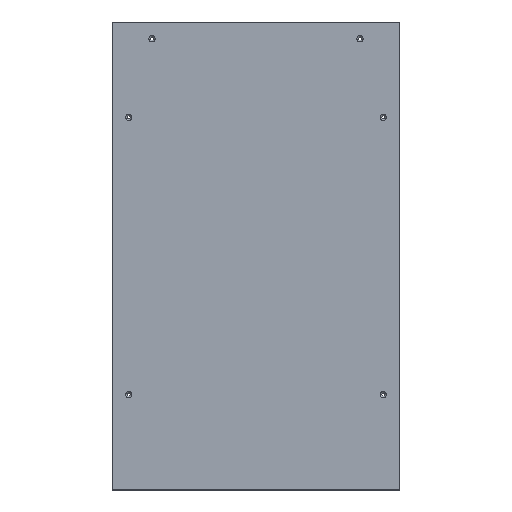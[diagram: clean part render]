
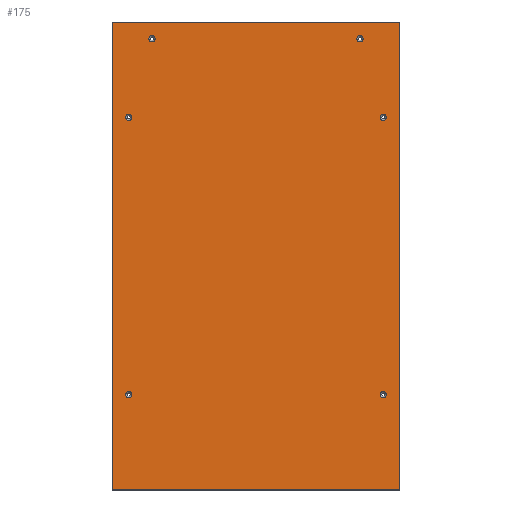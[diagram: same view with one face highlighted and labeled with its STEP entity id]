
A CAD part, top view. The second image highlights one B-rep face of the part: STEP entity #175.
In plain terms, the highlighted planar face has unit normal (0, 0, 1).
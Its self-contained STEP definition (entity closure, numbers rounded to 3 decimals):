
#1 = CARTESIAN_POINT ( 'NONE',  ( -188., -200., 2. ) ) ;
#2 = CARTESIAN_POINT ( 'NONE',  ( 207.5, 337.5, 2. ) ) ;
#4 = EDGE_LOOP ( 'NONE', ( #253 ) ) ;
#6 = DIRECTION ( 'NONE',  ( -1., 0., 0. ) ) ;
#11 = CARTESIAN_POINT ( 'NONE',  ( -207.5, -337.5, 2. ) ) ;
#23 = VECTOR ( 'NONE', #161, 1000. ) ;
#25 = ORIENTED_EDGE ( 'NONE', *, *, #471, .T. ) ;
#30 = CARTESIAN_POINT ( 'NONE',  ( -207.5, -337.5, 2. ) ) ;
#35 = DIRECTION ( 'NONE',  ( 0., 1., 0. ) ) ;
#38 = ORIENTED_EDGE ( 'NONE', *, *, #476, .T. ) ;
#39 = CIRCLE ( 'NONE', #358, 4.5 ) ;
#40 = VECTOR ( 'NONE', #35, 1000. ) ;
#44 = FACE_OUTER_BOUND ( 'NONE', #188, .T. ) ;
#46 = PLANE ( 'NONE',  #448 ) ;
#50 = EDGE_LOOP ( 'NONE', ( #110 ) ) ;
#52 = CARTESIAN_POINT ( 'NONE',  ( 183.5, 200., 2. ) ) ;
#63 = ORIENTED_EDGE ( 'NONE', *, *, #495, .T. ) ;
#64 = EDGE_CURVE ( 'NONE', #135, #135, #73, .T. ) ;
#69 = ORIENTED_EDGE ( 'NONE', *, *, #64, .T. ) ;
#73 = CIRCLE ( 'NONE', #248, 4.5 ) ;
#75 = AXIS2_PLACEMENT_3D ( 'NONE', #204, #290, #118 ) ;
#80 = VERTEX_POINT ( 'NONE', #2 ) ;
#82 = CARTESIAN_POINT ( 'NONE',  ( 179., 200., 2. ) ) ;
#85 = VERTEX_POINT ( 'NONE', #433 ) ;
#89 = FACE_BOUND ( 'NONE', #245, .T. ) ;
#97 = CARTESIAN_POINT ( 'NONE',  ( 183.5, -200., 2. ) ) ;
#100 = VECTOR ( 'NONE', #292, 1000. ) ;
#101 = DIRECTION ( 'NONE',  ( -1., 0., 0. ) ) ;
#110 = ORIENTED_EDGE ( 'NONE', *, *, #122, .T. ) ;
#118 = DIRECTION ( 'NONE',  ( -1., 0., 0. ) ) ;
#120 = EDGE_LOOP ( 'NONE', ( #25 ) ) ;
#121 = DIRECTION ( 'NONE',  ( 0., -1., 0. ) ) ;
#122 = EDGE_CURVE ( 'NONE', #308, #308, #171, .T. ) ;
#123 = VERTEX_POINT ( 'NONE', #11 ) ;
#125 = EDGE_LOOP ( 'NONE', ( #69 ) ) ;
#135 = VERTEX_POINT ( 'NONE', #82 ) ;
#137 = CIRCLE ( 'NONE', #75, 4.5 ) ;
#147 = CARTESIAN_POINT ( 'NONE',  ( -183.5, -200., 2. ) ) ;
#152 = LINE ( 'NONE', #389, #23 ) ;
#161 = DIRECTION ( 'NONE',  ( 1., 0., 0. ) ) ;
#171 = CIRCLE ( 'NONE', #257, 4.5 ) ;
#175 = ADVANCED_FACE ( 'NONE', ( #441, #89, #360, #532, #315, #443, #44 ), #46, .F. ) ;
#188 = EDGE_LOOP ( 'NONE', ( #63, #38, #400, #384 ) ) ;
#190 = DIRECTION ( 'NONE',  ( -1., 0., 0. ) ) ;
#199 = LINE ( 'NONE', #244, #40 ) ;
#201 = CIRCLE ( 'NONE', #530, 4.5 ) ;
#204 = CARTESIAN_POINT ( 'NONE',  ( -183.5, 200., 2. ) ) ;
#218 = DIRECTION ( 'NONE',  ( 0., 0., -1. ) ) ;
#225 = VERTEX_POINT ( 'NONE', #442 ) ;
#243 = EDGE_CURVE ( 'NONE', #225, #225, #39, .T. ) ;
#244 = CARTESIAN_POINT ( 'NONE',  ( 207.5, -337.5, 2. ) ) ;
#245 = EDGE_LOOP ( 'NONE', ( #339 ) ) ;
#248 = AXIS2_PLACEMENT_3D ( 'NONE', #52, #394, #307 ) ;
#253 = ORIENTED_EDGE ( 'NONE', *, *, #243, .T. ) ;
#254 = CARTESIAN_POINT ( 'NONE',  ( 207.5, -337.5, 2. ) ) ;
#257 = AXIS2_PLACEMENT_3D ( 'NONE', #399, #309, #6 ) ;
#265 = VERTEX_POINT ( 'NONE', #1 ) ;
#276 = EDGE_CURVE ( 'NONE', #265, #265, #468, .T. ) ;
#290 = DIRECTION ( 'NONE',  ( 0., 0., -1. ) ) ;
#292 = DIRECTION ( 'NONE',  ( -1., 0., 0. ) ) ;
#293 = VERTEX_POINT ( 'NONE', #363 ) ;
#301 = EDGE_CURVE ( 'NONE', #85, #85, #201, .T. ) ;
#307 = DIRECTION ( 'NONE',  ( -1., 0., 0. ) ) ;
#308 = VERTEX_POINT ( 'NONE', #521 ) ;
#309 = DIRECTION ( 'NONE',  ( 0., 0., -1. ) ) ;
#315 = FACE_BOUND ( 'NONE', #50, .T. ) ;
#328 = DIRECTION ( 'NONE',  ( -1., 0., 0. ) ) ;
#333 = LINE ( 'NONE', #383, #100 ) ;
#339 = ORIENTED_EDGE ( 'NONE', *, *, #276, .T. ) ;
#357 = CARTESIAN_POINT ( 'NONE',  ( 0., 0., 2. ) ) ;
#358 = AXIS2_PLACEMENT_3D ( 'NONE', #97, #365, #328 ) ;
#360 = FACE_BOUND ( 'NONE', #4, .T. ) ;
#363 = CARTESIAN_POINT ( 'NONE',  ( -207.5, 337.5, 2. ) ) ;
#365 = DIRECTION ( 'NONE',  ( 0., 0., -1. ) ) ;
#369 = AXIS2_PLACEMENT_3D ( 'NONE', #147, #498, #101 ) ;
#383 = CARTESIAN_POINT ( 'NONE',  ( -207.5, 337.5, 2. ) ) ;
#384 = ORIENTED_EDGE ( 'NONE', *, *, #453, .T. ) ;
#389 = CARTESIAN_POINT ( 'NONE',  ( -207.5, -337.5, 2. ) ) ;
#390 = ORIENTED_EDGE ( 'NONE', *, *, #301, .T. ) ;
#391 = VERTEX_POINT ( 'NONE', #437 ) ;
#394 = DIRECTION ( 'NONE',  ( 0., 0., -1. ) ) ;
#399 = CARTESIAN_POINT ( 'NONE',  ( 150., 313.5, 2. ) ) ;
#400 = ORIENTED_EDGE ( 'NONE', *, *, #544, .T. ) ;
#408 = VERTEX_POINT ( 'NONE', #254 ) ;
#420 = EDGE_LOOP ( 'NONE', ( #390 ) ) ;
#433 = CARTESIAN_POINT ( 'NONE',  ( -154.5, 313.5, 2. ) ) ;
#437 = CARTESIAN_POINT ( 'NONE',  ( -188., 200., 2. ) ) ;
#441 = FACE_BOUND ( 'NONE', #120, .T. ) ;
#442 = CARTESIAN_POINT ( 'NONE',  ( 179., -200., 2. ) ) ;
#443 = FACE_BOUND ( 'NONE', #420, .T. ) ;
#448 = AXIS2_PLACEMENT_3D ( 'NONE', #357, #218, #491 ) ;
#453 = EDGE_CURVE ( 'NONE', #123, #408, #152, .T. ) ;
#468 = CIRCLE ( 'NONE', #369, 4.5 ) ;
#471 = EDGE_CURVE ( 'NONE', #391, #391, #137, .T. ) ;
#476 = EDGE_CURVE ( 'NONE', #80, #293, #333, .T. ) ;
#491 = DIRECTION ( 'NONE',  ( -1., 0., 0. ) ) ;
#493 = DIRECTION ( 'NONE',  ( 0., 0., -1. ) ) ;
#495 = EDGE_CURVE ( 'NONE', #408, #80, #199, .T. ) ;
#498 = DIRECTION ( 'NONE',  ( 0., 0., -1. ) ) ;
#513 = VECTOR ( 'NONE', #121, 1000. ) ;
#514 = LINE ( 'NONE', #30, #513 ) ;
#521 = CARTESIAN_POINT ( 'NONE',  ( 145.5, 313.5, 2. ) ) ;
#530 = AXIS2_PLACEMENT_3D ( 'NONE', #533, #493, #190 ) ;
#532 = FACE_BOUND ( 'NONE', #125, .T. ) ;
#533 = CARTESIAN_POINT ( 'NONE',  ( -150., 313.5, 2. ) ) ;
#544 = EDGE_CURVE ( 'NONE', #293, #123, #514, .T. ) ;
